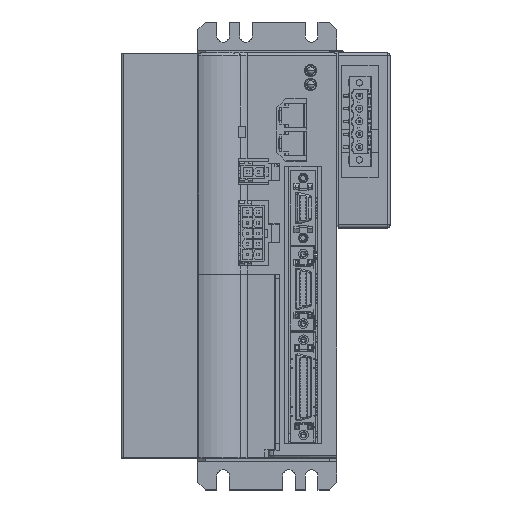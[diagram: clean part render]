
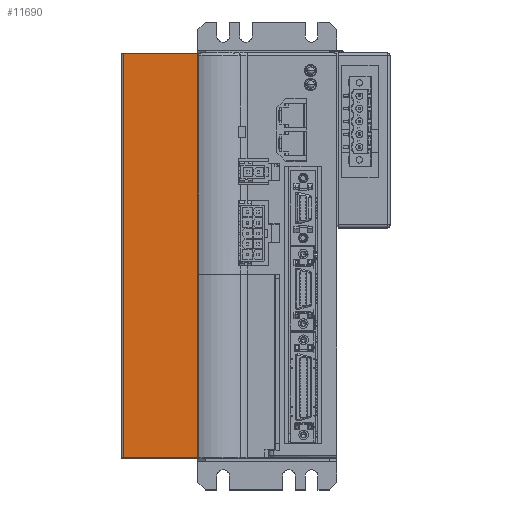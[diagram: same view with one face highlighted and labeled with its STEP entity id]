
A CAD part, top view. The second image highlights one B-rep face of the part: STEP entity #11690.
In plain terms, the highlighted planar face has unit normal (0, 0, 1).
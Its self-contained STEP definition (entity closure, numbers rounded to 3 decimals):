
#11690=ADVANCED_FACE('',(#44808),#44807,.T.);
#44807=PLANE('',#77711);
#44808=FACE_OUTER_BOUND('',#77712,.T.);
#77708=CARTESIAN_POINT('',(-39.55,-169.5,-14.9));
#77709=DIRECTION('',(0.,0.,1.));
#77710=DIRECTION('',(1.,0.,0.));
#77711=AXIS2_PLACEMENT_3D('',#77708,#77709,#77710);
#77712=EDGE_LOOP('',(#103697,#103698,#103699,#103700));
#103697=ORIENTED_EDGE('',*,*,#120999,.F.);
#103698=ORIENTED_EDGE('',*,*,#121113,.F.);
#103699=ORIENTED_EDGE('',*,*,#121000,.T.);
#103700=ORIENTED_EDGE('',*,*,#120875,.T.);
#120875=EDGE_CURVE('',#182024,#182016,#182025,.T.);
#120999=EDGE_CURVE('',#182883,#182016,#182890,.T.);
#121000=EDGE_CURVE('',#182896,#182024,#182897,.T.);
#121113=EDGE_CURVE('',#182896,#182883,#183684,.T.);
#182016=VERTEX_POINT('',#248952);
#182024=VERTEX_POINT('',#248957);
#182025=LINE('',#248958,#248959);
#182883=VERTEX_POINT('',#249510);
#182890=LINE('',#249515,#249516);
#182896=VERTEX_POINT('',#249518);
#182897=LINE('',#249519,#249520);
#183684=LINE('',#250022,#250023);
#248952=CARTESIAN_POINT('',(-7.1,0.5,-14.9));
#248957=CARTESIAN_POINT('',(-7.1,-159.5,-14.9));
#248958=CARTESIAN_POINT('',(-7.1,-159.5,-14.9));
#248959=VECTOR('',#248960,160.);
#248960=DIRECTION('',(0.,1.,0.));
#249510=CARTESIAN_POINT('',(-36.6,0.5,-14.9));
#249515=CARTESIAN_POINT('',(-36.6,0.5,-14.9));
#249516=VECTOR('',#249517,29.5);
#249517=DIRECTION('',(1.,0.,0.));
#249518=CARTESIAN_POINT('',(-36.6,-159.5,-14.9));
#249519=CARTESIAN_POINT('',(-36.6,-159.5,-14.9));
#249520=VECTOR('',#249521,29.5);
#249521=DIRECTION('',(1.,0.,0.));
#250022=CARTESIAN_POINT('',(-36.6,-159.5,-14.9));
#250023=VECTOR('',#250024,160.);
#250024=DIRECTION('',(0.,1.,0.));
